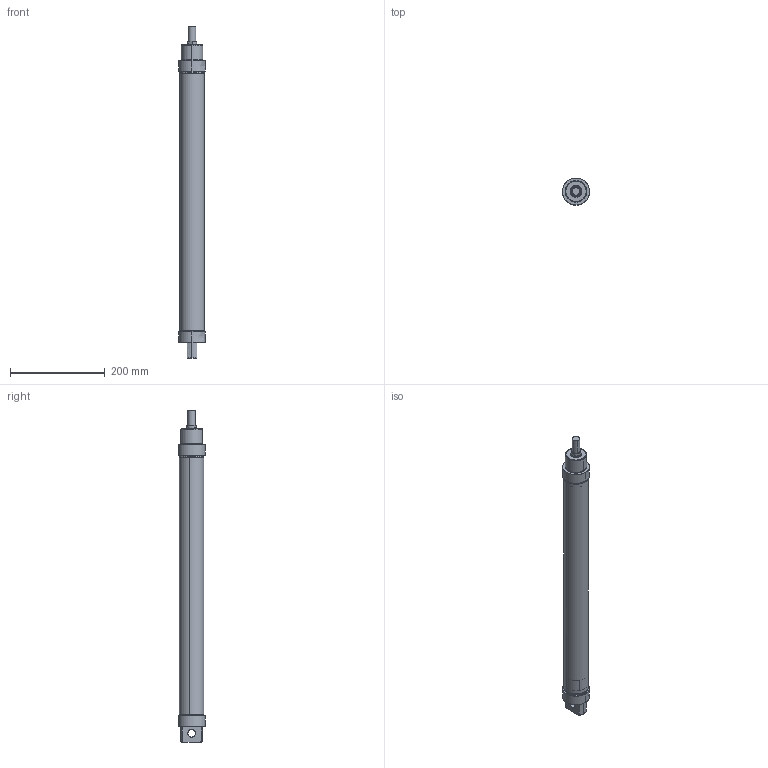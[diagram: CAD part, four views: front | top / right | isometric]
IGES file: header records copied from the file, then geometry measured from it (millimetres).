
Start section: SolidWorks IGES file using analytic representation for surfaces
Global section: file name: D:\ARICA 3D ÇÝZÝMLER\3D IGES\MAC6432S\MAC6432S-50\MAC6432S-50X500-CYLINDER.IGS; native system: SolidWorks 2013; preprocessor: SolidWorks 2013; author: user; date: 170206.091048; units: millimetre
Bounding box: 57 x 55.5 x 700.57 mm (x, y, z)
Surface area: 257248.4 mm2 (no closed solid volume)
Topology: 0 solids, 0 shells, 104 faces, 2947 edges, 2947 vertices
Faces by surface type: revolution 64, bspline 40
